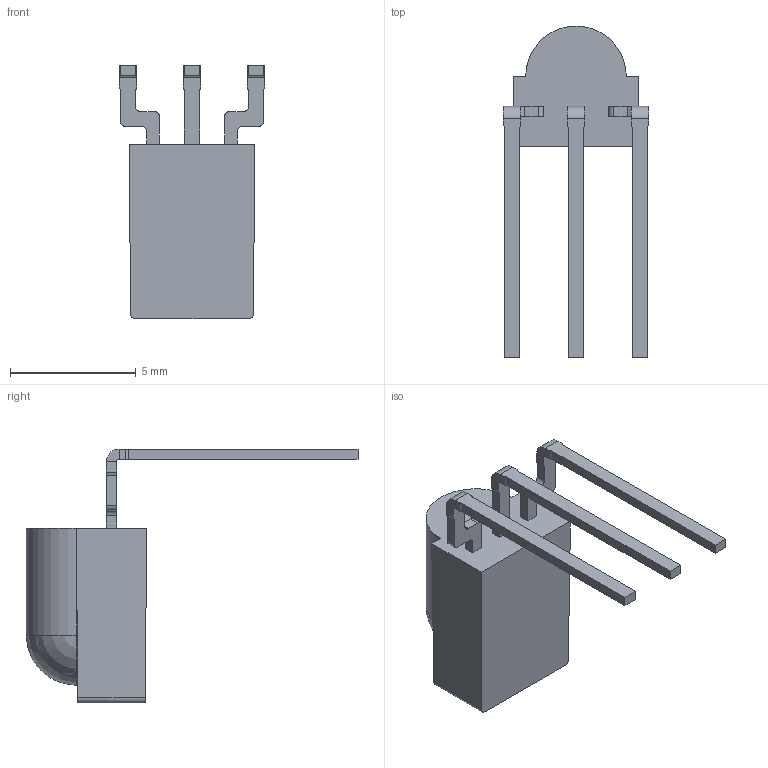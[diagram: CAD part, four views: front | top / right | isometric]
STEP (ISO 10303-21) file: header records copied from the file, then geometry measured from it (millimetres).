
FILE_DESCRIPTION((''),'2;1');
FILE_NAME('C:\temp\Hauschildt\3D-files\Minicast\Minicast_SO.stp','2014-05-22T14:07:10',('gobenland'),(''),'Autodesk Inventor 2013','Autodesk Inventor 2013','');
FILE_SCHEMA(('AUTOMOTIVE_DESIGN { 1 0 10303 214 1 1 1 1 }'));
Length unit declared in the file: millimetre
Products named in the file (3): GO-100187.10; GO-100187; GO-100187.010
Assembly tree (2 placements, depth 2):
  GO-100187.10
    GO-100187
    GO-100187.010
Bounding box: 5.78 x 13.2 x 10.1 mm (x, y, z)
Volume: 139.3 mm3; surface area: 237.2 mm2
Topology: 4 solids, 4 shells, 95 faces, 235 edges, 146 vertices
Faces by surface type: plane 64, cylinder 30, sphere 1
Entity records: 2856 total; most frequent: DIRECTION 493, CARTESIAN_POINT 479, ORIENTED_EDGE 466, EDGE_CURVE 233, VECTOR 173, LINE 173, AXIS2_PLACEMENT_3D 160, VERTEX_POINT 146
